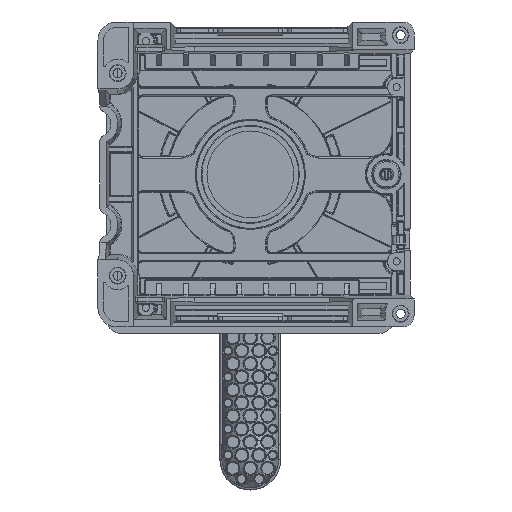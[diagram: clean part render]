
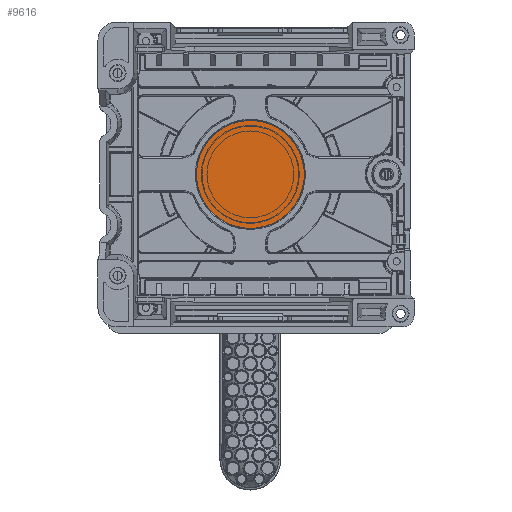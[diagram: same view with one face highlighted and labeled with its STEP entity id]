
A CAD part, front view. The second image highlights one B-rep face of the part: STEP entity #9616.
In plain terms, the highlighted planar face has unit normal (0, -1, 0).
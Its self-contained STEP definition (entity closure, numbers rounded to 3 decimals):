
#6160=PLANE('',#81543);
#9616=ADVANCED_FACE('',(#15286),#6160,.F.);
#15286=FACE_OUTER_BOUND('',#19847,.T.);
#19847=EDGE_LOOP('',(#39945));
#25634=CIRCLE('',#81539,24.75);
#39945=ORIENTED_EDGE('',*,*,#62364,.T.);
#53259=VERTEX_POINT('',#155843);
#62364=EDGE_CURVE('',#53259,#53259,#25634,.T.);
#81539=AXIS2_PLACEMENT_3D('',#155842,#96666,#96667);
#81543=AXIS2_PLACEMENT_3D('',#155848,#96674,#96675);
#96666=DIRECTION('',(0.,-1.,0.));
#96667=DIRECTION('',(1.,0.,0.));
#96674=DIRECTION('',(0.,1.,0.));
#96675=DIRECTION('',(-1.,0.,0.));
#155842=CARTESIAN_POINT('',(0.,0.,0.));
#155843=CARTESIAN_POINT('',(24.75,0.,0.));
#155848=CARTESIAN_POINT('',(0.,0.,0.));
